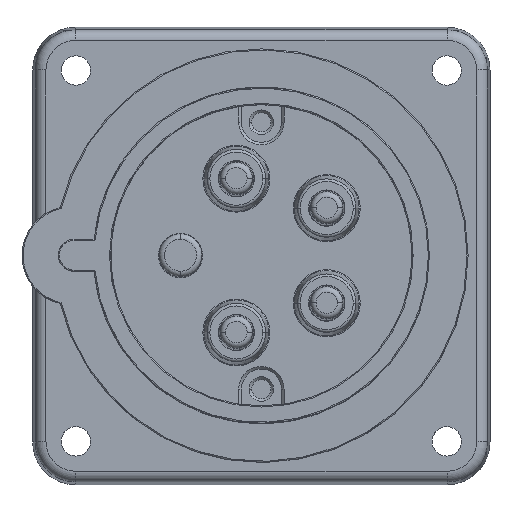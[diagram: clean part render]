
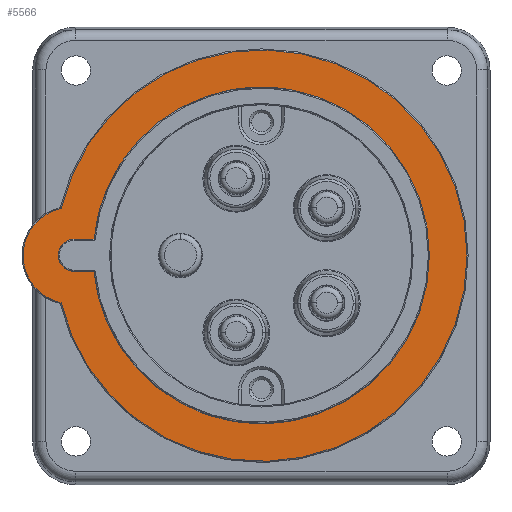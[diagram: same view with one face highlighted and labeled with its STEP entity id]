
A CAD part, top view. The second image highlights one B-rep face of the part: STEP entity #5566.
In plain terms, the highlighted planar face has unit normal (0, 0, 1).
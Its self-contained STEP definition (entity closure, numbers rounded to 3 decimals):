
#573 = VERTEX_POINT ( 'NONE', #7807 ) ;
#607 = EDGE_CURVE ( 'NONE', #9257, #8994, #6024, .T. ) ;
#746 = CARTESIAN_POINT ( 'NONE',  ( -30.678, 902.3, 41.1 ) ) ;
#964 = FACE_OUTER_BOUND ( 'NONE', #7502, .T. ) ;
#988 = CARTESIAN_POINT ( 'NONE',  ( 0., 900., 41.1 ) ) ;
#1158 = CIRCLE ( 'NONE', #1316, 9.037 ) ;
#1218 = AXIS2_PLACEMENT_3D ( 'NONE', #2785, #8693, #1495 ) ;
#1316 = AXIS2_PLACEMENT_3D ( 'NONE', #4850, #3363, #5702 ) ;
#1370 = ORIENTED_EDGE ( 'NONE', *, *, #5509, .T. ) ;
#1407 = CARTESIAN_POINT ( 'NONE',  ( -37.525, 908.832, 41.1 ) ) ;
#1432 = EDGE_CURVE ( 'NONE', #573, #2069, #7592, .T. ) ;
#1495 = DIRECTION ( 'NONE',  ( -1., 0., 0. ) ) ;
#1654 = ORIENTED_EDGE ( 'NONE', *, *, #5238, .T. ) ;
#1753 = CARTESIAN_POINT ( 'NONE',  ( 0., 900., 41.1 ) ) ;
#1770 = EDGE_LOOP ( 'NONE', ( #5224, #6495, #1370, #6966, #1654 ) ) ;
#1959 = CIRCLE ( 'NONE', #2274, 2.3 ) ;
#2069 = VERTEX_POINT ( 'NONE', #1407 ) ;
#2274 = AXIS2_PLACEMENT_3D ( 'NONE', #6985, #7522, #3228 ) ;
#2615 = CARTESIAN_POINT ( 'NONE',  ( -44.65, 900., 41.1 ) ) ;
#2634 = CARTESIAN_POINT ( 'NONE',  ( -17.807, 900., 41.1 ) ) ;
#2640 = ORIENTED_EDGE ( 'NONE', *, *, #6137, .T. ) ;
#2785 = CARTESIAN_POINT ( 'NONE',  ( -31.55, 900., 41.1 ) ) ;
#2876 = CARTESIAN_POINT ( 'NONE',  ( -31.55, 897.7, 41.1 ) ) ;
#2976 = CIRCLE ( 'NONE', #8375, 9.037 ) ;
#3133 = AXIS2_PLACEMENT_3D ( 'NONE', #1753, #4703, #7638 ) ;
#3228 = DIRECTION ( 'NONE',  ( -1., 0., 0. ) ) ;
#3354 = DIRECTION ( 'NONE',  ( 0., 0., -1. ) ) ;
#3363 = DIRECTION ( 'NONE',  ( 0., 0., 1. ) ) ;
#3566 = VERTEX_POINT ( 'NONE', #4660 ) ;
#3633 = VERTEX_POINT ( 'NONE', #2615 ) ;
#3687 = DIRECTION ( 'NONE',  ( -1., 0., 0. ) ) ;
#3846 = DIRECTION ( 'NONE',  ( 1., 0., 0. ) ) ;
#3901 = FACE_BOUND ( 'NONE', #1770, .T. ) ;
#4111 = CIRCLE ( 'NONE', #4580, 30.95 ) ;
#4323 = DIRECTION ( 'NONE',  ( -1., 0., 0. ) ) ;
#4413 = VECTOR ( 'NONE', #4323, 1000. ) ;
#4580 = AXIS2_PLACEMENT_3D ( 'NONE', #988, #3354, #6296 ) ;
#4612 = EDGE_CURVE ( 'NONE', #6282, #5748, #8163, .T. ) ;
#4660 = CARTESIAN_POINT ( 'NONE',  ( -30.864, 897.7, 41.1 ) ) ;
#4703 = DIRECTION ( 'NONE',  ( 0., 0., 1. ) ) ;
#4828 = ORIENTED_EDGE ( 'NONE', *, *, #1432, .T. ) ;
#4850 = CARTESIAN_POINT ( 'NONE',  ( -35.613, 900., 41.1 ) ) ;
#5043 = CARTESIAN_POINT ( 'NONE',  ( -31.55, 897.7, 41.1 ) ) ;
#5224 = ORIENTED_EDGE ( 'NONE', *, *, #6215, .T. ) ;
#5238 = EDGE_CURVE ( 'NONE', #8994, #3566, #4111, .T. ) ;
#5509 = EDGE_CURVE ( 'NONE', #5748, #9257, #1959, .T. ) ;
#5566 = ADVANCED_FACE ( 'NONE', ( #964, #3901 ), #9072, .F. ) ;
#5702 = DIRECTION ( 'NONE',  ( -1., 0., 0. ) ) ;
#5748 = VERTEX_POINT ( 'NONE', #7395 ) ;
#5896 = CARTESIAN_POINT ( 'NONE',  ( -31.55, 902.3, 41.1 ) ) ;
#6024 = LINE ( 'NONE', #746, #9184 ) ;
#6137 = EDGE_CURVE ( 'NONE', #3633, #573, #1158, .T. ) ;
#6215 = EDGE_CURVE ( 'NONE', #3566, #6282, #8675, .T. ) ;
#6282 = VERTEX_POINT ( 'NONE', #2876 ) ;
#6296 = DIRECTION ( 'NONE',  ( -1., 0., 0. ) ) ;
#6317 = DIRECTION ( 'NONE',  ( 0., 0., -1. ) ) ;
#6495 = ORIENTED_EDGE ( 'NONE', *, *, #4612, .T. ) ;
#6966 = ORIENTED_EDGE ( 'NONE', *, *, #607, .T. ) ;
#6985 = CARTESIAN_POINT ( 'NONE',  ( -31.55, 900., 41.1 ) ) ;
#7395 = CARTESIAN_POINT ( 'NONE',  ( -33.85, 900., 41.1 ) ) ;
#7484 = ORIENTED_EDGE ( 'NONE', *, *, #9227, .T. ) ;
#7502 = EDGE_LOOP ( 'NONE', ( #4828, #7484, #2640 ) ) ;
#7522 = DIRECTION ( 'NONE',  ( 0., 0., -1. ) ) ;
#7592 = CIRCLE ( 'NONE', #3133, 38.55 ) ;
#7638 = DIRECTION ( 'NONE',  ( -1., 0., 0. ) ) ;
#7807 = CARTESIAN_POINT ( 'NONE',  ( -37.525, 891.168, 41.1 ) ) ;
#8086 = CARTESIAN_POINT ( 'NONE',  ( -35.613, 900., 41.1 ) ) ;
#8163 = CIRCLE ( 'NONE', #1218, 2.3 ) ;
#8375 = AXIS2_PLACEMENT_3D ( 'NONE', #8086, #9534, #3687 ) ;
#8675 = LINE ( 'NONE', #5043, #4413 ) ;
#8693 = DIRECTION ( 'NONE',  ( 0., 0., -1. ) ) ;
#8994 = VERTEX_POINT ( 'NONE', #9464 ) ;
#9072 = PLANE ( 'NONE',  #9527 ) ;
#9184 = VECTOR ( 'NONE', #3846, 1000. ) ;
#9227 = EDGE_CURVE ( 'NONE', #2069, #3633, #2976, .T. ) ;
#9254 = DIRECTION ( 'NONE',  ( 0., -1., 0. ) ) ;
#9257 = VERTEX_POINT ( 'NONE', #5896 ) ;
#9464 = CARTESIAN_POINT ( 'NONE',  ( -30.864, 902.3, 41.1 ) ) ;
#9527 = AXIS2_PLACEMENT_3D ( 'NONE', #2634, #6317, #9254 ) ;
#9534 = DIRECTION ( 'NONE',  ( 0., 0., 1. ) ) ;
